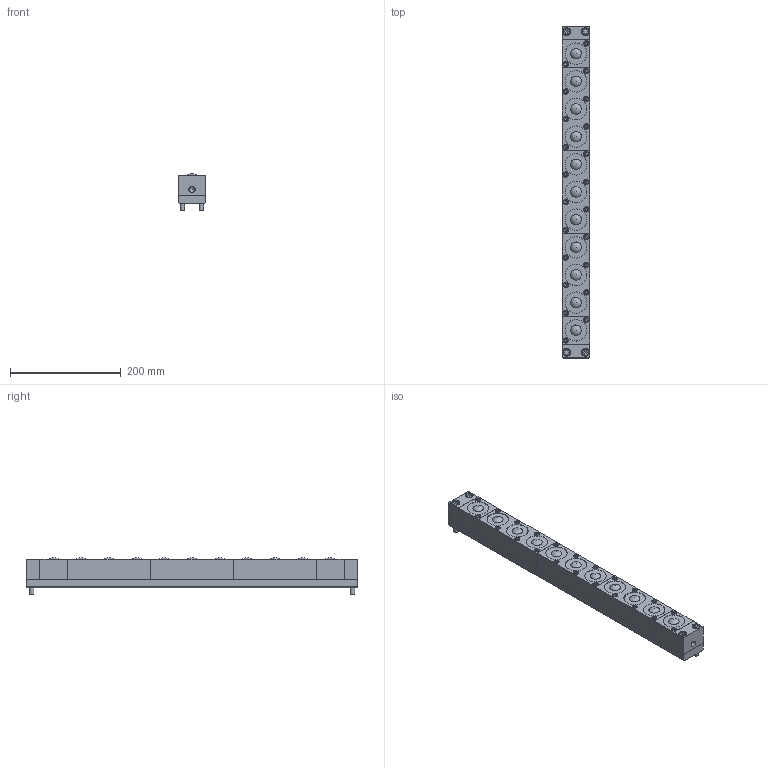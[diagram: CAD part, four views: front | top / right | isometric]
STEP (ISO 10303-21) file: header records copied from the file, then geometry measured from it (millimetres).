
FILE_DESCRIPTION(/* description */ (''),/* implementation_level */ '2;1');
FILE_NAME(/* name */ 'Z:\34-Tei\01-web 3Dデータ\08-ISR-C50S型\ISR-C50S-600-A.stp',/* time_stamp */ '2015-01-15T15:52:05+09:00',/* author */ ('yamaki'),/* organization */ (''),/* preprocessor_version */ 'ST-DEVELOPER v15.6',/* originating_system */ 'Autodesk Inventor 2015',/* authorisation */ '');
FILE_SCHEMA (('AUTOMOTIVE_DESIGN { 1 0 10303 214 3 1 1 }'));
Length unit declared in the file: millimetre
Products named in the file (6): 4200AT-01-600; 4601SL; 4600AA; ISO 4762 - M8 x 55ISO; 4601SL-3; ISR-C50S-100-A
Bounding box: 49.5 x 600 x 67 mm (x, y, z)
Volume: 1480437.5 mm3; surface area: 338341 mm2
Topology: 19 solids, 19 shells, 554 faces, 1166 edges, 749 vertices
Faces by surface type: plane 375, cylinder 101, cone 39, torus 28, sphere 11
Full cylindrical faces by diameter (mm): 8 x2, 8.5 x22, 9 x2, 9.5 x22, 10.5 x1, 13 x4, 14.5 x4, 38.7 x11, 39 x11, 42 x22
Entity records: 5969 total; most frequent: CARTESIAN_POINT 1070, DIRECTION 956, ORIENTED_EDGE 828, EDGE_CURVE 414, AXIS2_PLACEMENT_3D 344, EDGE_LOOP 330, VERTEX_POINT 296, LINE 268
